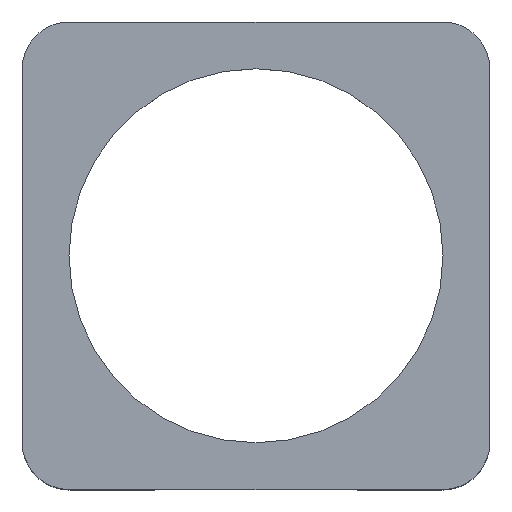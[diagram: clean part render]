
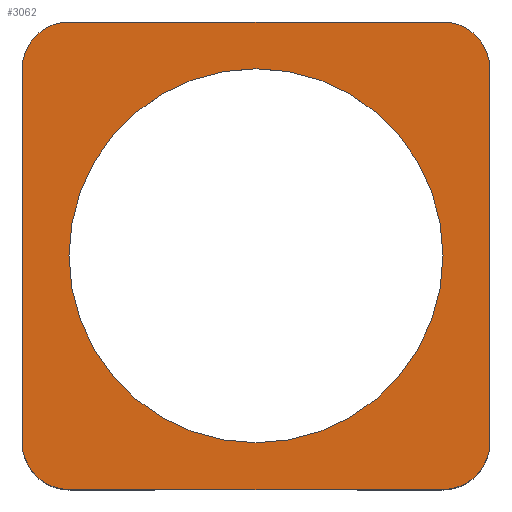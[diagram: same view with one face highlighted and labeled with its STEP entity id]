
A CAD part, top view. The second image highlights one B-rep face of the part: STEP entity #3062.
In plain terms, the highlighted planar face has unit normal (0, 0, 1).
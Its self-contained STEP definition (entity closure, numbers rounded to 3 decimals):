
#1443 = VERTEX_POINT('',#1444);
#1444 = CARTESIAN_POINT('',(3.,0.,25.));
#1452 = VERTEX_POINT('',#1453);
#1453 = CARTESIAN_POINT('',(0.,3.,25.));
#1459 = EDGE_CURVE('',#1452,#1443,#1460,.T.);
#1460 = CIRCLE('',#1461,3.);
#1461 = AXIS2_PLACEMENT_3D('',#1462,#1463,#1464);
#1462 = CARTESIAN_POINT('',(3.,3.,25.));
#1463 = DIRECTION('',(0.,0.,1.));
#1464 = DIRECTION('',(1.,0.,0.));
#1476 = EDGE_CURVE('',#1443,#1477,#1479,.T.);
#1477 = VERTEX_POINT('',#1478);
#1478 = CARTESIAN_POINT('',(27.,0.,25.));
#1479 = LINE('',#1480,#1481);
#1480 = CARTESIAN_POINT('',(3.,0.,25.));
#1481 = VECTOR('',#1482,1.);
#1482 = DIRECTION('',(1.,0.,0.));
#2158 = VERTEX_POINT('',#2159);
#2159 = CARTESIAN_POINT('',(30.,3.,25.));
#2167 = EDGE_CURVE('',#1477,#2158,#2168,.T.);
#2168 = CIRCLE('',#2169,3.);
#2169 = AXIS2_PLACEMENT_3D('',#2170,#2171,#2172);
#2170 = CARTESIAN_POINT('',(27.,3.,25.));
#2171 = DIRECTION('',(0.,0.,1.));
#2172 = DIRECTION('',(1.,0.,0.));
#2185 = VERTEX_POINT('',#2186);
#2186 = CARTESIAN_POINT('',(30.,27.,25.));
#2192 = EDGE_CURVE('',#2158,#2185,#2193,.T.);
#2193 = LINE('',#2194,#2195);
#2194 = CARTESIAN_POINT('',(30.,3.,25.));
#2195 = VECTOR('',#2196,1.);
#2196 = DIRECTION('',(0.,1.,0.));
#2208 = EDGE_CURVE('',#2185,#2209,#2211,.T.);
#2209 = VERTEX_POINT('',#2210);
#2210 = CARTESIAN_POINT('',(27.,30.,25.));
#2211 = CIRCLE('',#2212,3.);
#2212 = AXIS2_PLACEMENT_3D('',#2213,#2214,#2215);
#2213 = CARTESIAN_POINT('',(27.,27.,25.));
#2214 = DIRECTION('',(0.,0.,1.));
#2215 = DIRECTION('',(1.,0.,0.));
#2233 = VERTEX_POINT('',#2234);
#2234 = CARTESIAN_POINT('',(3.,30.,25.));
#2240 = EDGE_CURVE('',#2233,#2209,#2241,.T.);
#2241 = LINE('',#2242,#2243);
#2242 = CARTESIAN_POINT('',(3.,30.,25.));
#2243 = VECTOR('',#2244,1.);
#2244 = DIRECTION('',(1.,0.,0.));
#2257 = EDGE_CURVE('',#2233,#2258,#2260,.T.);
#2258 = VERTEX_POINT('',#2259);
#2259 = CARTESIAN_POINT('',(0.,27.,25.));
#2260 = CIRCLE('',#2261,3.);
#2261 = AXIS2_PLACEMENT_3D('',#2262,#2263,#2264);
#2262 = CARTESIAN_POINT('',(3.,27.,25.));
#2263 = DIRECTION('',(0.,0.,1.));
#2264 = DIRECTION('',(1.,0.,0.));
#2283 = EDGE_CURVE('',#1452,#2258,#2284,.T.);
#2284 = LINE('',#2285,#2286);
#2285 = CARTESIAN_POINT('',(0.,3.,25.));
#2286 = VECTOR('',#2287,1.);
#2287 = DIRECTION('',(0.,1.,0.));
#3062 = ADVANCED_FACE('',(#3063,#3073),#3084,.T.);
#3063 = FACE_BOUND('',#3064,.T.);
#3064 = EDGE_LOOP('',(#3065,#3066,#3067,#3068,#3069,#3070,#3071,#3072));
#3065 = ORIENTED_EDGE('',*,*,#1459,.T.);
#3066 = ORIENTED_EDGE('',*,*,#1476,.T.);
#3067 = ORIENTED_EDGE('',*,*,#2167,.T.);
#3068 = ORIENTED_EDGE('',*,*,#2192,.T.);
#3069 = ORIENTED_EDGE('',*,*,#2208,.T.);
#3070 = ORIENTED_EDGE('',*,*,#2240,.F.);
#3071 = ORIENTED_EDGE('',*,*,#2257,.T.);
#3072 = ORIENTED_EDGE('',*,*,#2283,.F.);
#3073 = FACE_BOUND('',#3074,.T.);
#3074 = EDGE_LOOP('',(#3075));
#3075 = ORIENTED_EDGE('',*,*,#3076,.T.);
#3076 = EDGE_CURVE('',#3077,#3077,#3079,.T.);
#3077 = VERTEX_POINT('',#3078);
#3078 = CARTESIAN_POINT('',(27.,15.,25.));
#3079 = CIRCLE('',#3080,12.);
#3080 = AXIS2_PLACEMENT_3D('',#3081,#3082,#3083);
#3081 = CARTESIAN_POINT('',(15.,15.,25.));
#3082 = DIRECTION('',(0.,0.,-1.));
#3083 = DIRECTION('',(1.,0.,0.));
#3084 = PLANE('',#3085);
#3085 = AXIS2_PLACEMENT_3D('',#3086,#3087,#3088);
#3086 = CARTESIAN_POINT('',(15.,15.,25.));
#3087 = DIRECTION('',(0.,0.,1.));
#3088 = DIRECTION('',(1.,0.,0.));
